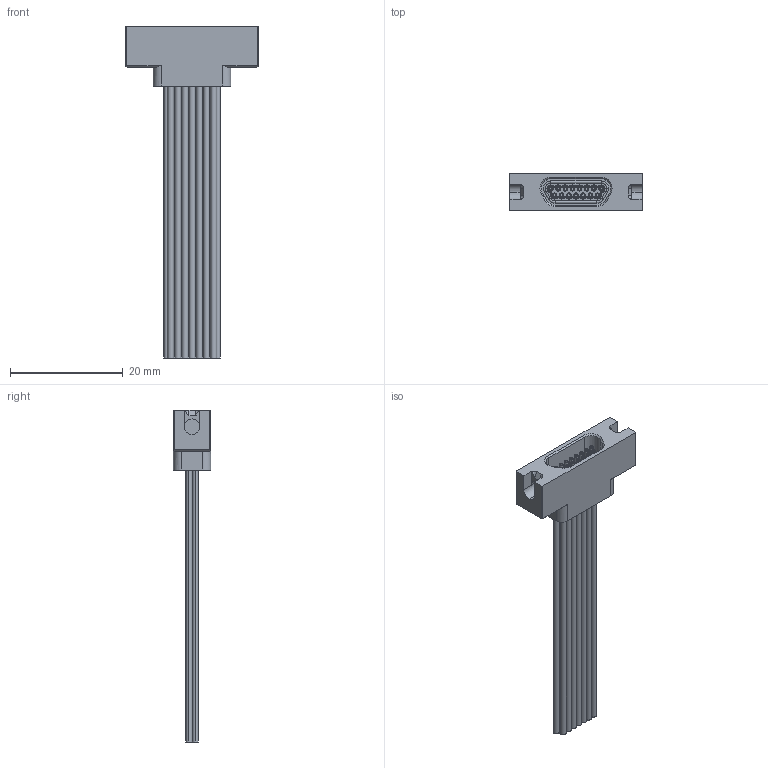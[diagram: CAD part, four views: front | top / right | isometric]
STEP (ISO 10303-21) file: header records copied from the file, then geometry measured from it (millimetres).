
FILE_DESCRIPTION (( 'STEP AP214' ), '1' );
FILE_NAME ('A99150-015 REV C.STEP', '2021-01-20T18:30:52', ( '' ), ( '' ), 'SwSTEP 2.0', 'SolidWorks 2019', '' );
FILE_SCHEMA (( 'AUTOMOTIVE_DESIGN' ));
Length unit declared in the file: inch
Products named in the file (1): A99150-015 REV C
Bounding box: 23.5 x 6.62 x 58.88 mm (x, y, z)
Volume: 1811.4 mm3; surface area: 4263.5 mm2
Topology: 1 solids, 19 shells, 758 faces, 1756 edges, 1135 vertices
Faces by surface type: cylinder 319, plane 308, torus 68, bspline 54, cone 9
Entity records: 34419 total; most frequent: CARTESIAN_POINT 6930, DIRECTION 3803, ORIENTED_EDGE 3500, EDGE_CURVE 1750, AXIS2_PLACEMENT_3D 1480, VERTEX_POINT 1135, EDGE_LOOP 895, LINE 843
